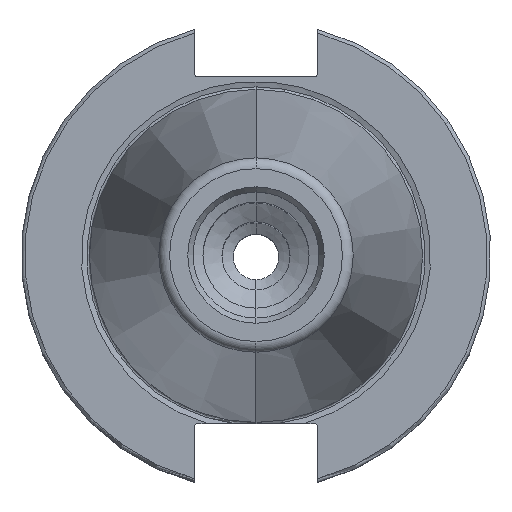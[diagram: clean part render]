
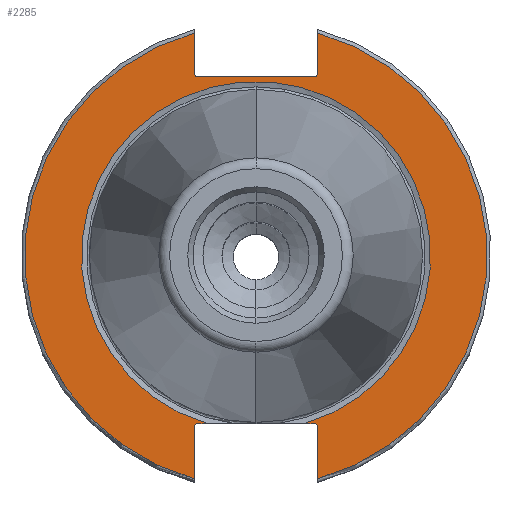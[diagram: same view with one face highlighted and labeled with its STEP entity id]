
A CAD part, top view. The second image highlights one B-rep face of the part: STEP entity #2285.
In plain terms, the highlighted planar face has unit normal (0, 0, 1).
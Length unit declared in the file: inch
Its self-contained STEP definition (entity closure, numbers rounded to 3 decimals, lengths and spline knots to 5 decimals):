
#37 = ORIENTED_EDGE ( 'NONE', *, *, #3004, .T. ) ;
#53 = CARTESIAN_POINT ( 'NONE',  ( 1.9075, 1.4775, -0.125 ) ) ;
#55 = DIRECTION ( 'NONE',  ( 0., -1., 0. ) ) ;
#59 = ORIENTED_EDGE ( 'NONE', *, *, #2832, .F. ) ;
#68 = VECTOR ( 'NONE', #2023, 39.37008 ) ;
#69 = DIRECTION ( 'NONE',  ( 0., 0., -1. ) ) ;
#82 = VERTEX_POINT ( 'NONE', #1548 ) ;
#135 = DIRECTION ( 'NONE',  ( 0., -1., 0. ) ) ;
#191 = AXIS2_PLACEMENT_3D ( 'NONE', #2902, #329, #2830 ) ;
#216 = CARTESIAN_POINT ( 'NONE',  ( 0.51, -1.4125, -0.125 ) ) ;
#229 = EDGE_CURVE ( 'NONE', #394, #1218, #1806, .T. ) ;
#255 = CARTESIAN_POINT ( 'NONE',  ( -0.48, 1.4775, -0.125 ) ) ;
#275 = CARTESIAN_POINT ( 'NONE',  ( -0.51, -1.83806, -0.125 ) ) ;
#282 = VECTOR ( 'NONE', #3960, 39.37008 ) ;
#319 = ORIENTED_EDGE ( 'NONE', *, *, #958, .T. ) ;
#327 = DIRECTION ( 'NONE',  ( 0., -1., 0. ) ) ;
#329 = DIRECTION ( 'NONE',  ( 0., 0., -1. ) ) ;
#372 = CARTESIAN_POINT ( 'NONE',  ( -0.48, 1.5075, -0.125 ) ) ;
#382 = EDGE_CURVE ( 'NONE', #2678, #927, #1765, .T. ) ;
#394 = VERTEX_POINT ( 'NONE', #3911 ) ;
#398 = CARTESIAN_POINT ( 'NONE',  ( 1.9075, -1.3825, -0.125 ) ) ;
#425 = CIRCLE ( 'NONE', #2651, 1.43979 ) ;
#446 = ORIENTED_EDGE ( 'NONE', *, *, #1536, .F. ) ;
#647 = CARTESIAN_POINT ( 'NONE',  ( 0.51, 0., -0.125 ) ) ;
#694 = CARTESIAN_POINT ( 'NONE',  ( 0.51, 1.83806, -0.125 ) ) ;
#697 = CIRCLE ( 'NONE', #2917, 0.03 ) ;
#730 = CARTESIAN_POINT ( 'NONE',  ( 0.40209, -1.3825, -0.125 ) ) ;
#782 = VECTOR ( 'NONE', #1963, 39.37008 ) ;
#786 = AXIS2_PLACEMENT_3D ( 'NONE', #3270, #3009, #135 ) ;
#839 = VERTEX_POINT ( 'NONE', #275 ) ;
#846 = ORIENTED_EDGE ( 'NONE', *, *, #2979, .T. ) ;
#864 = CARTESIAN_POINT ( 'NONE',  ( 0.51, 1.5075, -0.125 ) ) ;
#913 = EDGE_CURVE ( 'NONE', #3242, #1701, #2258, .T. ) ;
#927 = VERTEX_POINT ( 'NONE', #3850 ) ;
#955 = ORIENTED_EDGE ( 'NONE', *, *, #1666, .F. ) ;
#958 = EDGE_CURVE ( 'NONE', #1998, #394, #2972, .T. ) ;
#1005 = ORIENTED_EDGE ( 'NONE', *, *, #3379, .F. ) ;
#1035 = VERTEX_POINT ( 'NONE', #694 ) ;
#1037 = CARTESIAN_POINT ( 'NONE',  ( 0.51, -1.83806, -0.125 ) ) ;
#1054 = LINE ( 'NONE', #3649, #282 ) ;
#1162 = ORIENTED_EDGE ( 'NONE', *, *, #913, .T. ) ;
#1209 = CARTESIAN_POINT ( 'NONE',  ( 0.51, 0., -0.125 ) ) ;
#1218 = VERTEX_POINT ( 'NONE', #216 ) ;
#1278 = DIRECTION ( 'NONE',  ( 0., 0., -1. ) ) ;
#1317 = ORIENTED_EDGE ( 'NONE', *, *, #2626, .T. ) ;
#1322 = CIRCLE ( 'NONE', #191, 1.9075 ) ;
#1506 = AXIS2_PLACEMENT_3D ( 'NONE', #3214, #2015, #2977 ) ;
#1536 = EDGE_CURVE ( 'NONE', #839, #82, #1322, .T. ) ;
#1548 = CARTESIAN_POINT ( 'NONE',  ( -0.51, 1.83806, -0.125 ) ) ;
#1556 = AXIS2_PLACEMENT_3D ( 'NONE', #2738, #3971, #3082 ) ;
#1569 = DIRECTION ( 'NONE',  ( 0., 0., -1. ) ) ;
#1587 = CARTESIAN_POINT ( 'NONE',  ( -0.51, -1.4125, -0.125 ) ) ;
#1606 = VERTEX_POINT ( 'NONE', #2177 ) ;
#1666 = EDGE_CURVE ( 'NONE', #82, #1701, #2024, .T. ) ;
#1693 = PLANE ( 'NONE',  #1506 ) ;
#1701 = VERTEX_POINT ( 'NONE', #1958 ) ;
#1725 = ORIENTED_EDGE ( 'NONE', *, *, #2380, .T. ) ;
#1727 = EDGE_LOOP ( 'NONE', ( #955, #446, #37, #846, #2322, #1317, #319, #1875, #1725, #59, #3382, #2756, #1005, #1162 ) ) ;
#1765 = LINE ( 'NONE', #2653, #68 ) ;
#1806 = CIRCLE ( 'NONE', #2754, 0.03 ) ;
#1845 = CARTESIAN_POINT ( 'NONE',  ( -0.48, -1.4125, -0.125 ) ) ;
#1875 = ORIENTED_EDGE ( 'NONE', *, *, #229, .T. ) ;
#1927 = AXIS2_PLACEMENT_3D ( 'NONE', #372, #3895, #55 ) ;
#1958 = CARTESIAN_POINT ( 'NONE',  ( -0.51, 1.5075, -0.125 ) ) ;
#1963 = DIRECTION ( 'NONE',  ( 1., 0., 0. ) ) ;
#1987 = DIRECTION ( 'NONE',  ( 0., -1., 0. ) ) ;
#1998 = VERTEX_POINT ( 'NONE', #730 ) ;
#2015 = DIRECTION ( 'NONE',  ( 0., 0., 1. ) ) ;
#2023 = DIRECTION ( 'NONE',  ( 1., 0., 0. ) ) ;
#2024 = LINE ( 'NONE', #2613, #4057 ) ;
#2109 = CIRCLE ( 'NONE', #1556, 1.9075 ) ;
#2127 = CIRCLE ( 'NONE', #786, 0.03 ) ;
#2177 = CARTESIAN_POINT ( 'NONE',  ( 0.48, 1.4775, -0.125 ) ) ;
#2246 = VERTEX_POINT ( 'NONE', #1037 ) ;
#2258 = CIRCLE ( 'NONE', #1927, 0.03 ) ;
#2285 = ADVANCED_FACE ( 'NONE', ( #3259 ), #1693, .T. ) ;
#2322 = ORIENTED_EDGE ( 'NONE', *, *, #382, .T. ) ;
#2380 = EDGE_CURVE ( 'NONE', #1218, #2246, #3423, .T. ) ;
#2440 = CARTESIAN_POINT ( 'NONE',  ( -0.48, -1.3825, -0.125 ) ) ;
#2460 = VERTEX_POINT ( 'NONE', #1587 ) ;
#2613 = CARTESIAN_POINT ( 'NONE',  ( -0.51, 0., -0.125 ) ) ;
#2626 = EDGE_CURVE ( 'NONE', #927, #1998, #425, .T. ) ;
#2651 = AXIS2_PLACEMENT_3D ( 'NONE', #2939, #69, #3881 ) ;
#2653 = CARTESIAN_POINT ( 'NONE',  ( 1.9075, -1.3825, -0.125 ) ) ;
#2678 = VERTEX_POINT ( 'NONE', #2440 ) ;
#2738 = CARTESIAN_POINT ( 'NONE',  ( 0., 0., -0.125 ) ) ;
#2754 = AXIS2_PLACEMENT_3D ( 'NONE', #3843, #1569, #327 ) ;
#2756 = ORIENTED_EDGE ( 'NONE', *, *, #4099, .T. ) ;
#2830 = DIRECTION ( 'NONE',  ( 0., 1., 0. ) ) ;
#2832 = EDGE_CURVE ( 'NONE', #1035, #2246, #2109, .T. ) ;
#2846 = DIRECTION ( 'NONE',  ( 1., 0., 0. ) ) ;
#2902 = CARTESIAN_POINT ( 'NONE',  ( 0., 0., -0.125 ) ) ;
#2917 = AXIS2_PLACEMENT_3D ( 'NONE', #1845, #1278, #1987 ) ;
#2939 = CARTESIAN_POINT ( 'NONE',  ( 0., 0., -0.125 ) ) ;
#2972 = LINE ( 'NONE', #398, #782 ) ;
#2977 = DIRECTION ( 'NONE',  ( 0., -1., 0. ) ) ;
#2979 = EDGE_CURVE ( 'NONE', #2460, #2678, #697, .T. ) ;
#3004 = EDGE_CURVE ( 'NONE', #839, #2460, #1054, .T. ) ;
#3009 = DIRECTION ( 'NONE',  ( 0., 0., -1. ) ) ;
#3082 = DIRECTION ( 'NONE',  ( 0., 1., 0. ) ) ;
#3107 = VECTOR ( 'NONE', #3437, 39.37008 ) ;
#3144 = LINE ( 'NONE', #53, #4029 ) ;
#3205 = DIRECTION ( 'NONE',  ( 0., 1., 0. ) ) ;
#3214 = CARTESIAN_POINT ( 'NONE',  ( 1.9075, 0., -0.125 ) ) ;
#3242 = VERTEX_POINT ( 'NONE', #255 ) ;
#3246 = DIRECTION ( 'NONE',  ( 0., -1., 0. ) ) ;
#3259 = FACE_OUTER_BOUND ( 'NONE', #1727, .T. ) ;
#3270 = CARTESIAN_POINT ( 'NONE',  ( 0.48, 1.5075, -0.125 ) ) ;
#3379 = EDGE_CURVE ( 'NONE', #3242, #1606, #3144, .T. ) ;
#3382 = ORIENTED_EDGE ( 'NONE', *, *, #3472, .F. ) ;
#3423 = LINE ( 'NONE', #1209, #3107 ) ;
#3437 = DIRECTION ( 'NONE',  ( 0., -1., 0. ) ) ;
#3472 = EDGE_CURVE ( 'NONE', #3946, #1035, #3513, .T. ) ;
#3513 = LINE ( 'NONE', #647, #3886 ) ;
#3649 = CARTESIAN_POINT ( 'NONE',  ( -0.51, 0., -0.125 ) ) ;
#3843 = CARTESIAN_POINT ( 'NONE',  ( 0.48, -1.4125, -0.125 ) ) ;
#3850 = CARTESIAN_POINT ( 'NONE',  ( -0.40209, -1.3825, -0.125 ) ) ;
#3881 = DIRECTION ( 'NONE',  ( 0., 1., 0. ) ) ;
#3886 = VECTOR ( 'NONE', #3205, 39.37008 ) ;
#3895 = DIRECTION ( 'NONE',  ( 0., 0., -1. ) ) ;
#3911 = CARTESIAN_POINT ( 'NONE',  ( 0.48, -1.3825, -0.125 ) ) ;
#3946 = VERTEX_POINT ( 'NONE', #864 ) ;
#3960 = DIRECTION ( 'NONE',  ( 0., 1., 0. ) ) ;
#3971 = DIRECTION ( 'NONE',  ( 0., 0., -1. ) ) ;
#4029 = VECTOR ( 'NONE', #2846, 39.37008 ) ;
#4057 = VECTOR ( 'NONE', #3246, 39.37008 ) ;
#4099 = EDGE_CURVE ( 'NONE', #3946, #1606, #2127, .T. ) ;
